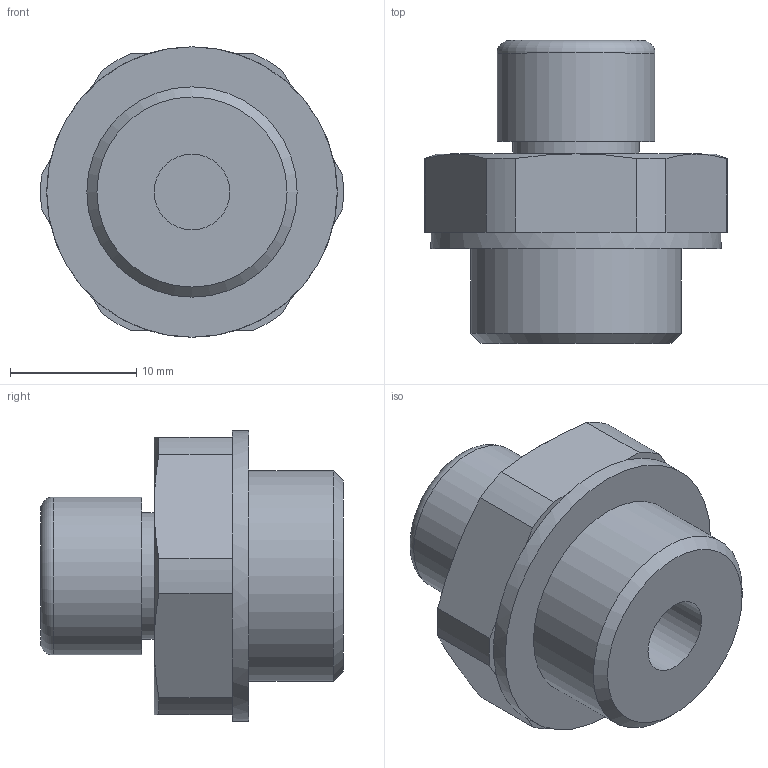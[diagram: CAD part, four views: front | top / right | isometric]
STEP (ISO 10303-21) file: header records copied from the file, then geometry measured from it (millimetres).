
FILE_DESCRIPTION( ( 'STEP AP203' ), '1' );
FILE_NAME( 'C:/Temp/Ganter_Step_05_03_2020/data/3_5/gn883/Breather valve GN 883-G3_8-160-B-MS.stp', '2020-03-12T13:42:50', ( 'License CC BY-ND 4.0' ), ( 'CADENAS' ), ' ', 'PARTsolutions', ' ' );
FILE_SCHEMA( ( 'CONFIG_CONTROL_DESIGN' ) );
Length unit declared in the file: millimetre
Products named in the file (1): _Breather valve GN 883-G3/8-160-B-MS
Bounding box: 23.98 x 24 x 23 mm (x, y, z)
Volume: 5440 mm3; surface area: 2399.4 mm2
Topology: 1 solids, 1 shells, 43 faces, 91 edges, 54 vertices
Faces by surface type: plane 24, cylinder 11, cone 7, torus 1
Full cylindrical faces by diameter (mm): 6 x1, 10 x1, 12.5 x1, 16.662 x1, 23 x1
Entity records: 1162 total; most frequent: CARTESIAN_POINT 220, DIRECTION 200, ORIENTED_EDGE 166, AXIS2_PLACEMENT_3D 85, EDGE_CURVE 83, EDGE_LOOP 54, VERTEX_POINT 53, FACE_OUTER_BOUND 49
